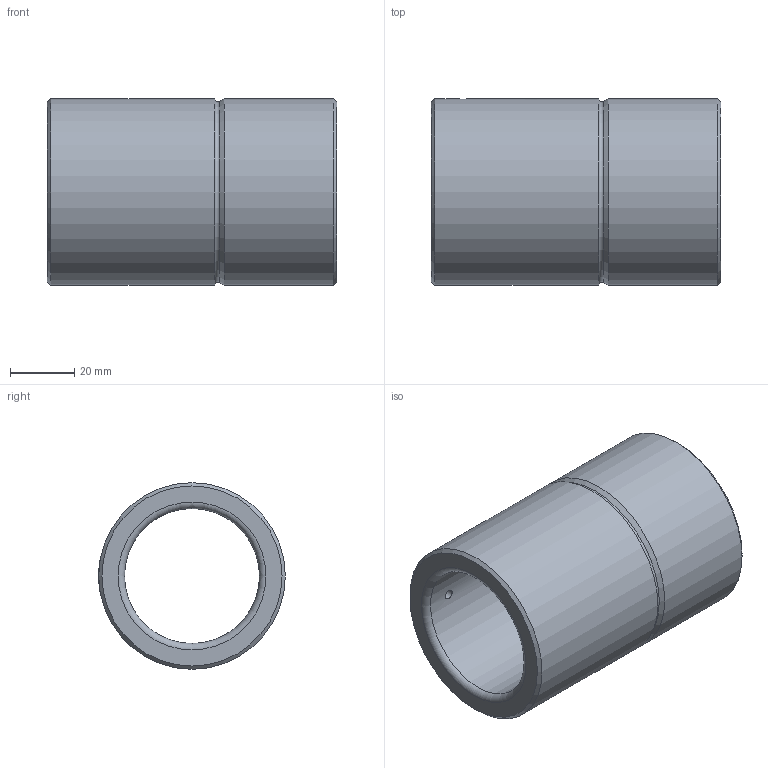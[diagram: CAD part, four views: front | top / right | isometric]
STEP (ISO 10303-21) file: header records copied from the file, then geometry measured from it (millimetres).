
FILE_DESCRIPTION( ( 'STEP AP214' ), '1' );
FILE_NAME( 'p:/temp/worker_347/temp/exporttempdir_5672_383_B5c9W/format_1/WZ 4068 42 x 90.stp', '2020-11-26T19:23:26', ( 'License CC BY-ND 4.0' ), ( 'CADENAS' ), ' ', 'PARTsolutions', ' ' );
FILE_SCHEMA( ( 'AUTOMOTIVE_DESIGN { 1 0 10303 214 1 1 1 1 }' ) );
Length unit declared in the file: millimetre
Products named in the file (1): _WZ 4068 42 x 90
Bounding box: 90 x 58.04 x 58.04 mm (x, y, z)
Volume: 107102.4 mm3; surface area: 30930 mm2
Topology: 1 solids, 1 shells, 16 faces, 29 edges, 17 vertices
Faces by surface type: cylinder 6, cone 4, plane 4, torus 2
Full cylindrical faces by diameter (mm): 3 x1, 5 x1, 42 x1, 44 x1, 58.04 x2
Entity records: 592 total; most frequent: CARTESIAN_POINT 163, DIRECTION 64, EDGE_LOOP 34, ORIENTED_EDGE 34, AXIS2_PLACEMENT_3D 32, FACE_OUTER_BOUND 24, EDGE_CURVE 17, VERTEX_POINT 17
